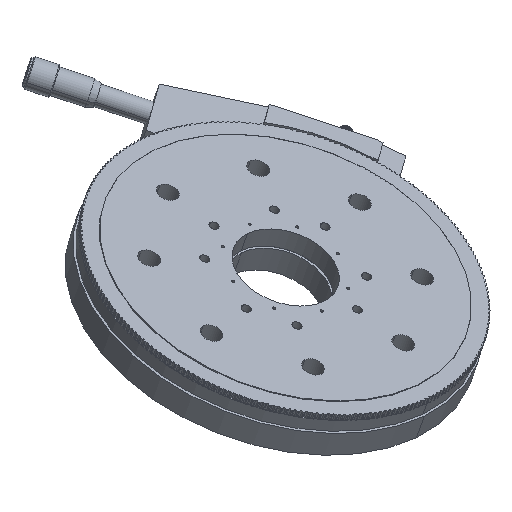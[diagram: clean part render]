
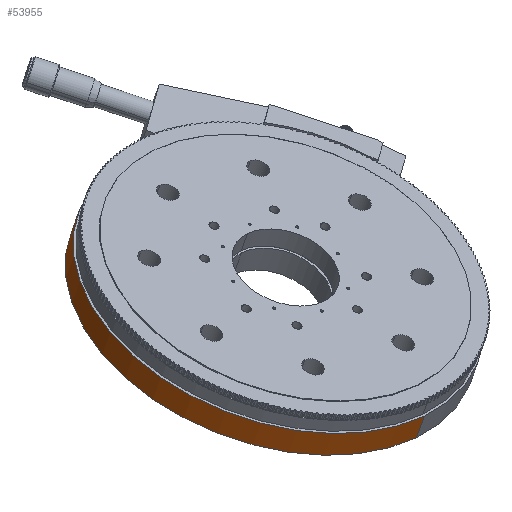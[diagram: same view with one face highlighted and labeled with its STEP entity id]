
A CAD part, isometric view. The second image highlights one B-rep face of the part: STEP entity #53955.
In plain terms, the highlighted cylindrical face has radius 99.5 mm (diameter 199 mm), a partial arc.
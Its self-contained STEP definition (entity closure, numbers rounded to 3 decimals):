
#7180 = CYLINDRICAL_SURFACE ( 'NONE', #7182, 99.5 ) ;
#7182 = AXIS2_PLACEMENT_3D ( 'NONE', #7243, #7242, #7241 ) ;
#7183 = FACE_OUTER_BOUND ( 'NONE', #53957, .T. ) ;
#7241 = DIRECTION ( 'NONE',  ( 0., 0.965, 0.263 ) ) ;
#7242 = DIRECTION ( 'NONE',  ( -0.114, 0.262, -0.958 ) ) ;
#7243 = CARTESIAN_POINT ( 'NONE',  ( 201.361, -84.896, -6.838 ) ) ;
#11580 = CARTESIAN_POINT ( 'NONE',  ( 201.361, -180.884, -33.039 ) ) ;
#11581 = CARTESIAN_POINT ( 'NONE',  ( 201.361, 11.093, 19.364 ) ) ;
#11715 = CARTESIAN_POINT ( 'NONE',  ( 199.759, -177.221, -46.456 ) ) ;
#11719 = DIRECTION ( 'NONE',  ( -0.114, 0.262, -0.958 ) ) ;
#11720 = VECTOR ( 'NONE', #11719, 1000. ) ;
#11721 = CARTESIAN_POINT ( 'NONE',  ( 201.361, -180.884, -33.039 ) ) ;
#11722 = LINE ( 'NONE', #11721, #11720 ) ;
#11834 = CARTESIAN_POINT ( 'NONE',  ( 199.759, 14.755, 5.946 ) ) ;
#11981 = DIRECTION ( 'NONE',  ( -0.114, 0.262, -0.958 ) ) ;
#11982 = VECTOR ( 'NONE', #11981, 1000. ) ;
#11983 = CARTESIAN_POINT ( 'NONE',  ( 201.361, 11.093, 19.364 ) ) ;
#11984 = LINE ( 'NONE', #11983, #11982 ) ;
#28113 = VERTEX_POINT ( 'NONE', #11581 ) ;
#28114 = VERTEX_POINT ( 'NONE', #11580 ) ;
#28153 = EDGE_CURVE ( 'NONE', #28114, #28158, #11722, .T. ) ;
#28158 = VERTEX_POINT ( 'NONE', #11715 ) ;
#28211 = VERTEX_POINT ( 'NONE', #11834 ) ;
#28276 = EDGE_CURVE ( 'NONE', #28113, #28211, #11984, .T. ) ;
#39283 = EDGE_CURVE ( 'NONE', #28114, #28113, #46192, .T. ) ;
#40311 = EDGE_CURVE ( 'NONE', #28158, #28211, #55560, .T. ) ;
#46187 = DIRECTION ( 'NONE',  ( 0., 0.965, 0.263 ) ) ;
#46188 = DIRECTION ( 'NONE',  ( -0.114, 0.262, -0.958 ) ) ;
#46189 = CARTESIAN_POINT ( 'NONE',  ( 201.361, -84.896, -6.838 ) ) ;
#46191 = AXIS2_PLACEMENT_3D ( 'NONE', #46189, #46188, #46187 ) ;
#46192 = CIRCLE ( 'NONE', #46191, 99.5 ) ;
#53903 = ORIENTED_EDGE ( 'NONE', *, *, #39283, .T. ) ;
#53905 = ORIENTED_EDGE ( 'NONE', *, *, #28276, .T. ) ;
#53907 = ORIENTED_EDGE ( 'NONE', *, *, #40311, .F. ) ;
#53955 = ADVANCED_FACE ( 'NONE', ( #7183 ), #7180, .T. ) ;
#53957 = EDGE_LOOP ( 'NONE', ( #53959, #53903, #53905, #53907 ) ) ;
#53959 = ORIENTED_EDGE ( 'NONE', *, *, #28153, .F. ) ;
#55554 = DIRECTION ( 'NONE',  ( 0., 0.965, 0.263 ) ) ;
#55555 = DIRECTION ( 'NONE',  ( -0.114, 0.262, -0.958 ) ) ;
#55557 = CARTESIAN_POINT ( 'NONE',  ( 199.759, -81.233, -20.255 ) ) ;
#55558 = AXIS2_PLACEMENT_3D ( 'NONE', #55557, #55555, #55554 ) ;
#55560 = CIRCLE ( 'NONE', #55558, 99.5 ) ;
